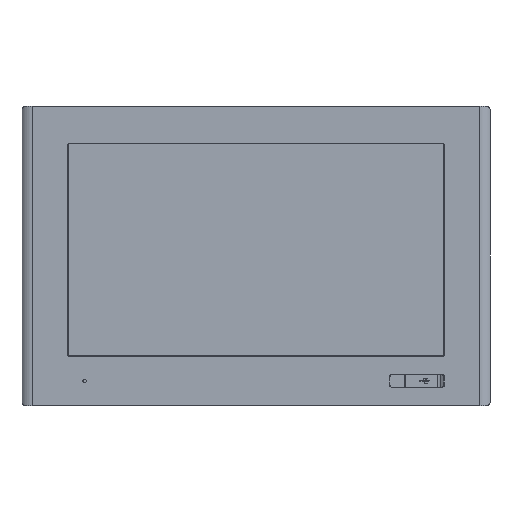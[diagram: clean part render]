
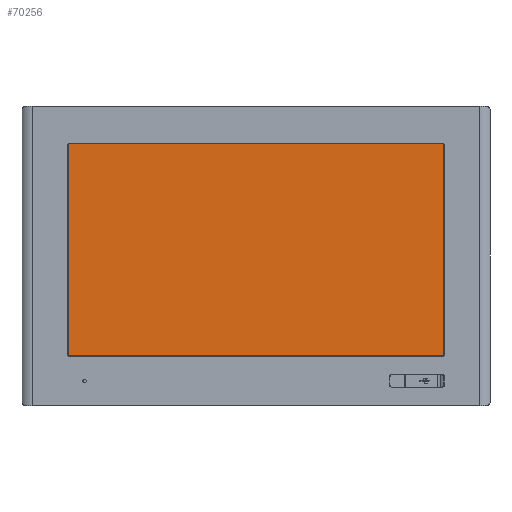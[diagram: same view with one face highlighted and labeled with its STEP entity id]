
A CAD part, front view. The second image highlights one B-rep face of the part: STEP entity #70256.
In plain terms, the highlighted planar face has unit normal (0, -1, 0).
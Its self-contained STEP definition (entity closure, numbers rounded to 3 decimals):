
#70100=DIRECTION('',(-1.,0.,0.));
#70101=VECTOR('',#70100,347.73);
#70102=CARTESIAN_POINT('',(173.865,-24.9,-96.12));
#70103=LINE('',#70102,#70101);
#70104=DIRECTION('',(0.,0.,1.));
#70105=VECTOR('',#70104,196.74);
#70106=CARTESIAN_POINT('',(-173.865,-24.9,-96.12));
#70107=LINE('',#70106,#70105);
#70108=DIRECTION('',(1.,0.,0.));
#70109=VECTOR('',#70108,347.73);
#70110=CARTESIAN_POINT('',(-173.865,-24.9,100.62));
#70111=LINE('',#70110,#70109);
#70112=DIRECTION('',(0.,0.,-1.));
#70113=VECTOR('',#70112,196.74);
#70114=CARTESIAN_POINT('',(173.865,-24.9,100.62));
#70115=LINE('',#70114,#70113);
#70148=CARTESIAN_POINT('',(173.865,-24.9,-96.12));
#70149=CARTESIAN_POINT('',(-173.865,-24.9,-96.12));
#70150=VERTEX_POINT('',#70148);
#70151=VERTEX_POINT('',#70149);
#70152=CARTESIAN_POINT('',(-173.865,-24.9,100.62));
#70153=VERTEX_POINT('',#70152);
#70154=CARTESIAN_POINT('',(173.865,-24.9,100.62));
#70155=VERTEX_POINT('',#70154);
#70241=CARTESIAN_POINT('',(0.,-24.9,2.25));
#70242=DIRECTION('',(0.,-1.,0.));
#70243=DIRECTION('',(-1.,0.,0.));
#70244=AXIS2_PLACEMENT_3D('',#70241,#70242,#70243);
#70245=PLANE('',#70244);
#70247=ORIENTED_EDGE('',*,*,#70246,.T.);
#70249=ORIENTED_EDGE('',*,*,#70248,.T.);
#70251=ORIENTED_EDGE('',*,*,#70250,.T.);
#70253=ORIENTED_EDGE('',*,*,#70252,.T.);
#70254=EDGE_LOOP('',(#70247,#70249,#70251,#70253));
#70255=FACE_OUTER_BOUND('',#70254,.F.);
#70246=EDGE_CURVE('',#70150,#70151,#70103,.T.);
#70248=EDGE_CURVE('',#70151,#70153,#70107,.T.);
#70250=EDGE_CURVE('',#70153,#70155,#70111,.T.);
#70252=EDGE_CURVE('',#70155,#70150,#70115,.T.);
#70256=ADVANCED_FACE('',(#70255),#70245,.T.);
